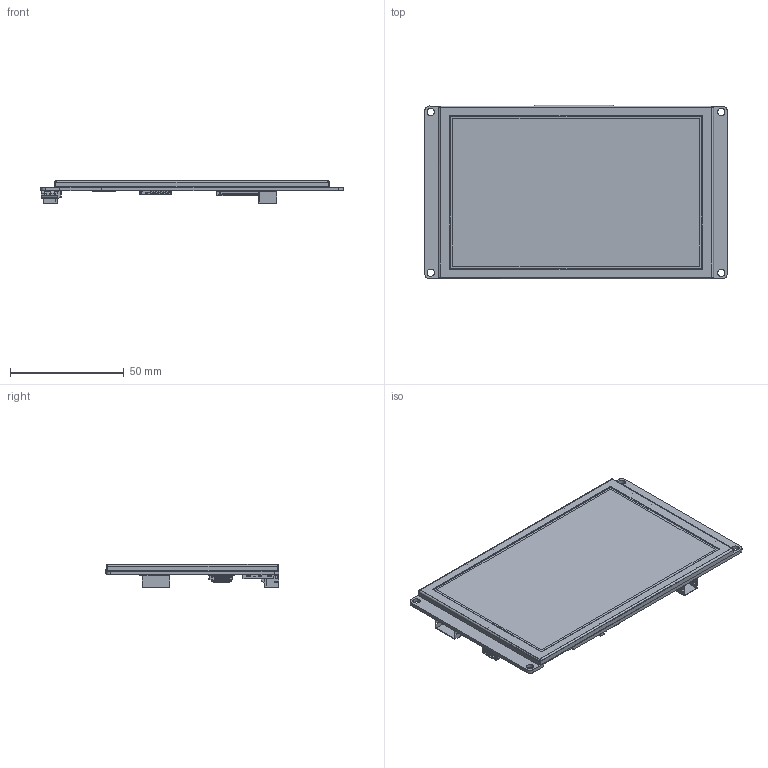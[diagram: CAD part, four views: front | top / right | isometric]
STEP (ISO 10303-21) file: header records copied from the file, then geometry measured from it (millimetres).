
FILE_DESCRIPTION (( 'STEP AP214' ), '1' );
FILE_NAME ('ER-TFT050-6-5975.STEP', '2024-06-28T09:25:54', ( '微软用户' ), ( '微软中国' ), 'SwSTEP 2.0', 'SolidWorks 2023', '' );
FILE_SCHEMA (( 'AUTOMOTIVE_DESIGN' ));
Length unit declared in the file: millimetre
Products named in the file (9): buydisplay_logo_z; 2.0-4P; USB_type_C_; ER-TFT050-6-5975; PCBA; FPC Connector_0.5-40P; ER-TFT050-6; ER-microSD; 2.0-2P
Assembly tree (8 placements, depth 2):
  ER-TFT050-6-5975
    PCBA
    ER-TFT050-6
    2.0-2P
    2.0-4P
    ER-microSD
    USB_type_C_
    FPC Connector_0.5-40P
    buydisplay_logo_z
Bounding box: 132.71 x 76.16 x 10.1 mm (x, y, z)
Volume: 38566.4 mm3; surface area: 71730.2 mm2
Topology: 135 solids, 135 shells, 3196 faces, 8144 edges, 5335 vertices
Faces by surface type: plane 2387, cylinder 426, bspline 351, torus 32
Entity records: 133860 total; most frequent: CARTESIAN_POINT 31791, ORIENTED_EDGE 16240, DIRECTION 13821, EDGE_CURVE 8120, VECTOR 6601, LINE 6601, VERTEX_POINT 5335, AXIS2_PLACEMENT_3D 3610
